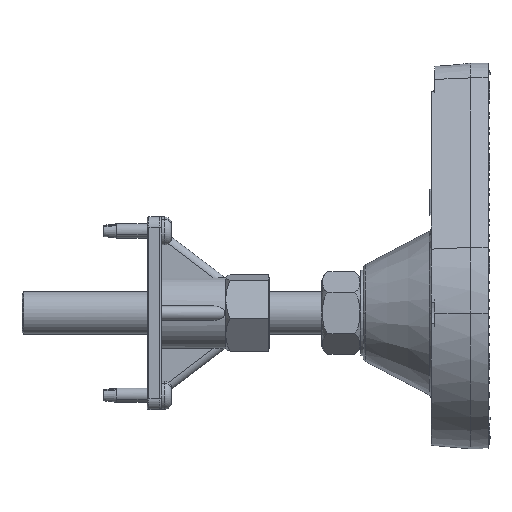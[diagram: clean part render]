
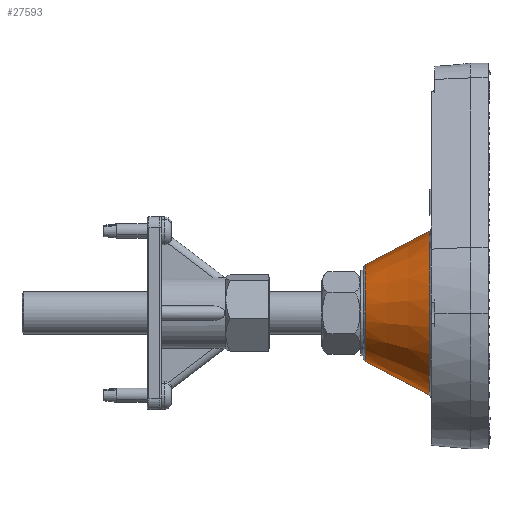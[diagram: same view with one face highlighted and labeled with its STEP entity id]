
A CAD part, left-side view. The second image highlights one B-rep face of the part: STEP entity #27593.
In plain terms, the highlighted conical face has half-angle 27.748 degrees and reference radius 36.472 mm.
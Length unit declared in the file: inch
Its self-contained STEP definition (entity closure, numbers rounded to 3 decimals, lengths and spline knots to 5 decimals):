
#561 = DIRECTION ( 'NONE',  ( 0., 0., -1. ) ) ;
#910 = DIRECTION ( 'NONE',  ( -1., 0., 0. ) ) ;
#1881 = VERTEX_POINT ( 'NONE', #31680 ) ;
#2931 = CARTESIAN_POINT ( 'NONE',  ( 0., 0., 1.03289 ) ) ;
#3051 = CARTESIAN_POINT ( 'NONE',  ( 0., -0.84607, 2.15411 ) ) ;
#4149 = AXIS2_PLACEMENT_3D ( 'NONE', #44061, #20032, #20210 ) ;
#4449 = ORIENTED_EDGE ( 'NONE', *, *, #17349, .F. ) ;
#5795 = AXIS2_PLACEMENT_3D ( 'NONE', #48572, #24739, #910 ) ;
#6910 = DIRECTION ( 'NONE',  ( -1., 0., 0. ) ) ;
#7556 = CARTESIAN_POINT ( 'NONE',  ( 0., 0.84607, 2.15411 ) ) ;
#8217 = EDGE_CURVE ( 'NONE', #40859, #1881, #23386, .T. ) ;
#9068 = CONICAL_SURFACE ( 'NONE', #4149, 1.43593, 0.484 ) ;
#9580 = DIRECTION ( 'NONE',  ( 0., 0.466, -0.885 ) ) ;
#11238 = CARTESIAN_POINT ( 'NONE',  ( 0., -1.43593, 1.03289 ) ) ;
#11265 = ORIENTED_EDGE ( 'NONE', *, *, #44557, .F. ) ;
#11286 = VERTEX_POINT ( 'NONE', #50229 ) ;
#12809 = VECTOR ( 'NONE', #47135, 39.37008 ) ;
#14993 = DIRECTION ( 'NONE',  ( 0., 0., -1. ) ) ;
#16149 = AXIS2_PLACEMENT_3D ( 'NONE', #24403, #561, #28377 ) ;
#17349 = EDGE_CURVE ( 'NONE', #30498, #36687, #25058, .T. ) ;
#18569 = CIRCLE ( 'NONE', #16149, 0.84607 ) ;
#20032 = DIRECTION ( 'NONE',  ( 0., 0., -1. ) ) ;
#20117 = ORIENTED_EDGE ( 'NONE', *, *, #34893, .T. ) ;
#20210 = DIRECTION ( 'NONE',  ( 0., 1., 0. ) ) ;
#23386 = LINE ( 'NONE', #11238, #12809 ) ;
#24403 = CARTESIAN_POINT ( 'NONE',  ( 0., 0., 2.15411 ) ) ;
#24739 = DIRECTION ( 'NONE',  ( 0., 0., -1. ) ) ;
#25058 = LINE ( 'NONE', #25462, #44979 ) ;
#25462 = CARTESIAN_POINT ( 'NONE',  ( 0., 1.43593, 1.03289 ) ) ;
#25895 = FACE_OUTER_BOUND ( 'NONE', #30567, .T. ) ;
#26902 = ORIENTED_EDGE ( 'NONE', *, *, #38559, .F. ) ;
#26962 = AXIS2_PLACEMENT_3D ( 'NONE', #2931, #30719, #6910 ) ;
#27593 = ADVANCED_FACE ( 'NONE', ( #25895 ), #9068, .T. ) ;
#28377 = DIRECTION ( 'NONE',  ( -1., 0., 0. ) ) ;
#30498 = VERTEX_POINT ( 'NONE', #7556 ) ;
#30567 = EDGE_LOOP ( 'NONE', ( #20117, #34276, #50637, #11265, #26902, #4449 ) ) ;
#30719 = DIRECTION ( 'NONE',  ( 0., 0., -1. ) ) ;
#31680 = CARTESIAN_POINT ( 'NONE',  ( 0., -1.43593, 1.03289 ) ) ;
#31908 = CIRCLE ( 'NONE', #26962, 1.43593 ) ;
#32575 = AXIS2_PLACEMENT_3D ( 'NONE', #38773, #14993, #42807 ) ;
#33986 = CARTESIAN_POINT ( 'NONE',  ( 0., 1.43593, 1.03289 ) ) ;
#34276 = ORIENTED_EDGE ( 'NONE', *, *, #38005, .T. ) ;
#34893 = EDGE_CURVE ( 'NONE', #30498, #11286, #18569, .T. ) ;
#36687 = VERTEX_POINT ( 'NONE', #33986 ) ;
#38005 = EDGE_CURVE ( 'NONE', #11286, #40859, #39482, .T. ) ;
#38559 = EDGE_CURVE ( 'NONE', #36687, #42241, #31908, .T. ) ;
#38773 = CARTESIAN_POINT ( 'NONE',  ( 0., 0., 2.15411 ) ) ;
#39482 = CIRCLE ( 'NONE', #32575, 0.84607 ) ;
#40859 = VERTEX_POINT ( 'NONE', #3051 ) ;
#42241 = VERTEX_POINT ( 'NONE', #45700 ) ;
#42807 = DIRECTION ( 'NONE',  ( -1., 0., 0. ) ) ;
#44061 = CARTESIAN_POINT ( 'NONE',  ( 0., 0., 1.03289 ) ) ;
#44557 = EDGE_CURVE ( 'NONE', #42241, #1881, #49251, .T. ) ;
#44979 = VECTOR ( 'NONE', #9580, 39.37008 ) ;
#45700 = CARTESIAN_POINT ( 'NONE',  ( 1.43593, 0., 1.03289 ) ) ;
#47135 = DIRECTION ( 'NONE',  ( 0., -0.466, -0.885 ) ) ;
#48572 = CARTESIAN_POINT ( 'NONE',  ( 0., 0., 1.03289 ) ) ;
#49251 = CIRCLE ( 'NONE', #5795, 1.43593 ) ;
#50229 = CARTESIAN_POINT ( 'NONE',  ( 0.84607, 0., 2.15411 ) ) ;
#50637 = ORIENTED_EDGE ( 'NONE', *, *, #8217, .T. ) ;
